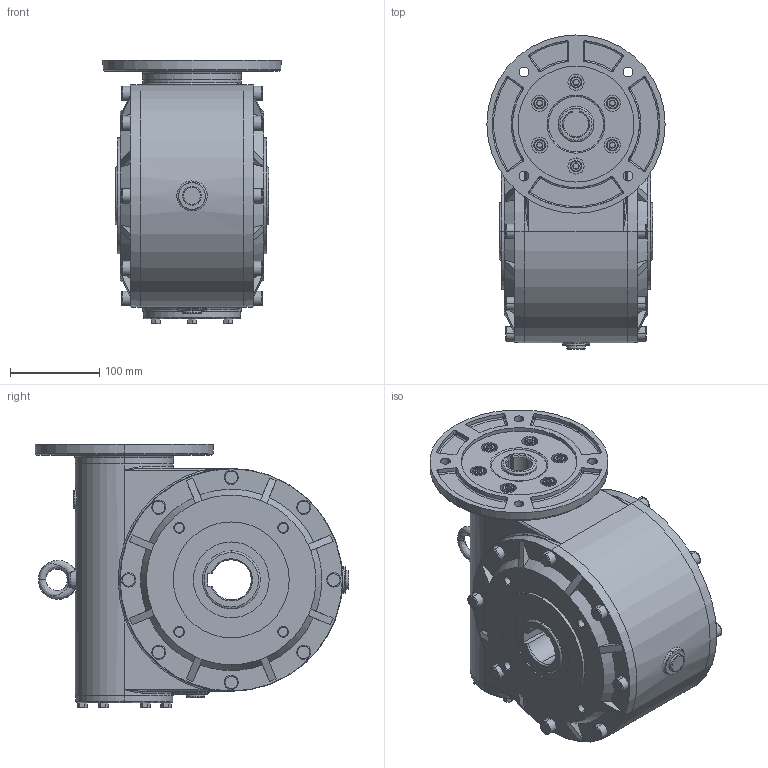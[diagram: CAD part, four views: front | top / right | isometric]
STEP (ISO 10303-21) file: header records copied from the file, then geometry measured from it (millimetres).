
FILE_DESCRIPTION (( 'STEP AP214' ), '1' );
FILE_NAME ('Sestava MRT120-FT.STEP', '2007-05-22T04:59:40', ( '' ), ( '' ), 'SwSTEP 2.0', 'SolidWorks 2004146', '' );
FILE_SCHEMA (( 'AUTOMOTIVE_DESIGN' ));
Length unit declared in the file: millimetre
Products named in the file (7): A18151M_ANSI B18.15.1M Závìsný šroub M10; Skøíò120_Výchozí; Pøíruba FT_Výchozí; Pøíruba MRT120 kulatá _130-165-188; Víèko_Výchozí; Sestava MRT120-FT; N021143_Šroub s vnitøním šestihranem DIN 912 - M8 x 25
Assembly tree (12 placements, depth 2):
  Sestava MRT120-FT
    N021143_Šroub s vnitøním šestihranem DIN 912 - M8 x 25  x6
    Pøíruba FT_Výchozí  x2
    Pøíruba MRT120 kulatá _130-165-188
    Víèko_Výchozí
    A18151M_ANSI B18.15.1M Závìsný šroub M10
    Skøíò120_Výchozí
Bounding box: 200 x 352 x 295.3 mm (x, y, z)
Volume: 9623412.7 mm3; surface area: 633851.3 mm2
Topology: 12 solids, 12 shells, 723 faces, 1605 edges, 954 vertices
Faces by surface type: plane 224, cylinder 181, cone 163, torus 131, bspline 22, sphere 2
Entity records: 34846 total; most frequent: CARTESIAN_POINT 23015, DIRECTION 2615, ORIENTED_EDGE 2268, EDGE_CURVE 1134, AXIS2_PLACEMENT_3D 1102, VERTEX_POINT 690, CIRCLE 615, EDGE_LOOP 568
